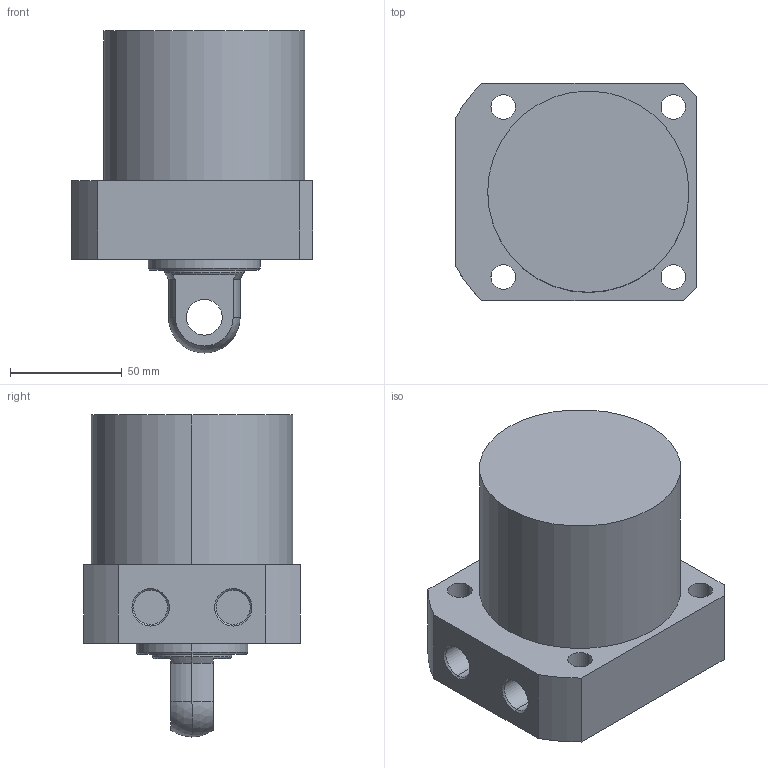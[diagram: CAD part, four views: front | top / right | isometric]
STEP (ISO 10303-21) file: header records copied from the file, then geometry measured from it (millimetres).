
FILE_DESCRIPTION (( 'STEP AP203' ), '1' );
FILE_NAME ('CLLR-090CP-045.STEP', '2019-12-19T03:23:36', ( '' ), ( '' ), 'SwSTEP 2.0', 'SolidWorks 2015', '' );
FILE_SCHEMA (( 'CONFIG_CONTROL_DESIGN' ));
Length unit declared in the file: millimetre
Products named in the file (1): CLLR-090CP-045
Bounding box: 108 x 97 x 144 mm (x, y, z)
Volume: 788707.6 mm3; surface area: 63643.4 mm2
Topology: 1 solids, 1 shells, 57 faces, 135 edges, 87 vertices
Faces by surface type: cylinder 29, plane 18, cone 8, sphere 2
Entity records: 1770 total; most frequent: DIRECTION 319, CARTESIAN_POINT 292, ORIENTED_EDGE 270, EDGE_CURVE 135, AXIS2_PLACEMENT_3D 130, VERTEX_POINT 87, EDGE_LOOP 74, CIRCLE 72
